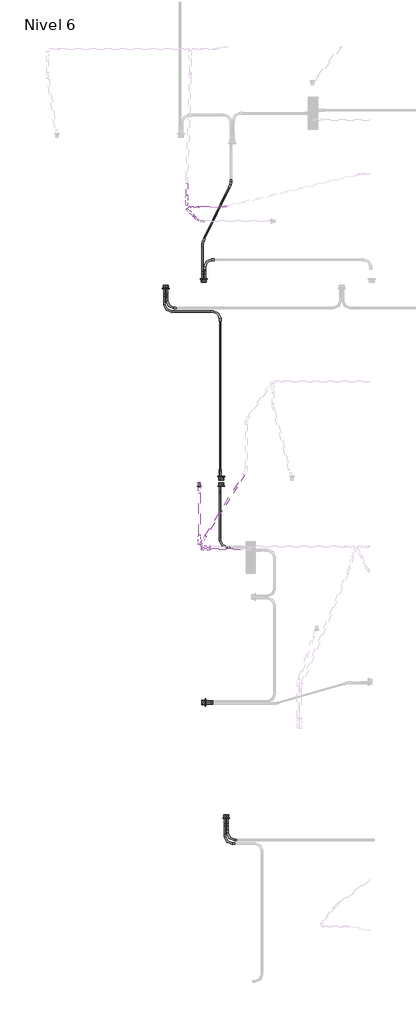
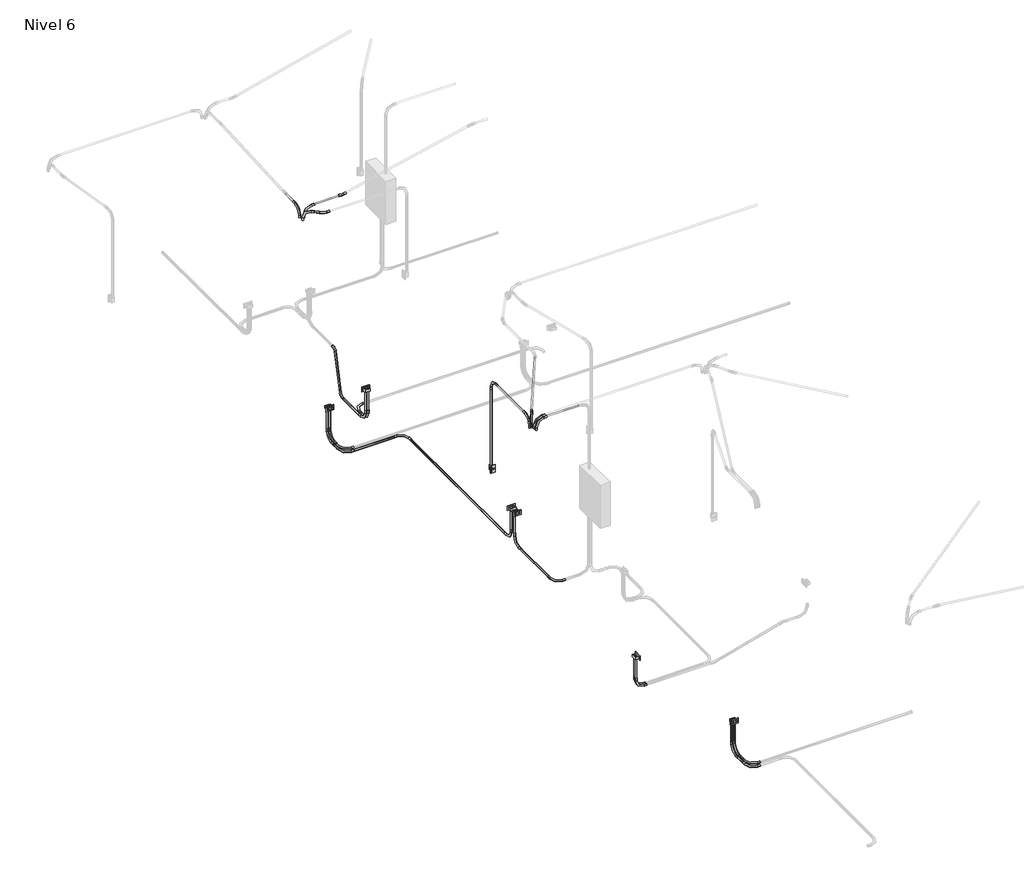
# One storey, part 1 of 9: 29 cable carrier fittings, 27 cable carrier segments, 6 proxies, 1 switching device.
"""IFC4 building model written with IfcOpenShell, lengths in millimetres."""

from ifc_helpers import new_model, si_unit, point, frame, frame_2d, origin, place, context, project, spatial, circle_curve, trimmed, segment, composite_curve, outline, extrude, transform, mapped, element, save
from components import gfci_180f1b41, m_codo_de_tubo_extremo_liso_pvc_9da73e12, m_codo_de_tubo_extremo_liso_pvc_985155b1, m_codo_de_tubo_extremo_liso_pvc_102f0f41, m_codo_de_tubo_extremo_liso_pvc_7aa797cd, m_codo_de_tubo_extremo_liso_pvc_f4916731, switching_device_22fed34b

model = new_model("IFC4")

# Units and contexts
model_context = context("Model", 3, world=origin())
ifc_project = project(units=[si_unit("LENGTHUNIT", "METRE", prefix="MILLI")], contexts=[model_context])

# Site, building, storey
site = spatial("IfcSite", under=ifc_project)
building = spatial("IfcBuilding", under=site)
storey = spatial("IfcBuildingStorey", under=building, Name="Nivel 6", Elevation=13400.0)

# Proxies
placement = place(None, origin())
gfci_shape = gfci_180f1b41(model_context)
element("IfcBuildingElementProxy", 1, Name="Tomacorriente doble 220V : GFCI", ObjectType="Tomacorriente doble 220V : GFCI", at=placement, inside=storey, context=model_context, shape_type="MappedRepresentation", body=[
    mapped(gfci_shape, transform((-489.5928488, 12365.0, 13800.0), x_axis=(0.0, 0.0, 1.0), y_axis=(1.0, 0.0, 0.0), z_axis=(0.0, 1.0, 0.0))),
])
element("IfcBuildingElementProxy", 2, Name="Tomacorriente doble 220V : GFCI", ObjectType="Tomacorriente doble 220V : GFCI", at=placement, inside=storey, context=model_context, shape_type="MappedRepresentation", body=[
    mapped(gfci_shape, transform((-1097.6783865, 12215.0, 13800.0), x_axis=(0.0, 0.0, 1.0), y_axis=(-1.0, 0.0, 0.0), z_axis=(0.0, -1.0, 0.0))),
])
element("IfcBuildingElementProxy", 3, Name="Tomacorriente doble 220V : GFCI", ObjectType="Tomacorriente doble 220V : GFCI", at=placement, inside=storey, context=model_context, shape_type="MappedRepresentation", body=[
    mapped(gfci_shape, transform((-206.3130807, 9199.6373182, 13800.0), x_axis=(0.0, 0.0, 1.0), y_axis=(1.0, 0.0, 0.0), z_axis=(0.0, 1.0, 0.0))),
])
element("IfcBuildingElementProxy", 4, Name="Tomacorriente doble 220V : GFCI", ObjectType="Tomacorriente doble 220V : GFCI", at=placement, inside=storey, context=model_context, shape_type="MappedRepresentation", body=[
    mapped(gfci_shape, transform((-209.814556, 9049.6373182, 13800.0), x_axis=(0.0, 0.0, 1.0), y_axis=(-1.0, 0.0, 0.0), z_axis=(0.0, -1.0, 0.0))),
])
element("IfcBuildingElementProxy", 5, Name="Tomacorriente doble 220V : GFCI", ObjectType="Tomacorriente doble 220V : GFCI", at=placement, inside=storey, context=model_context, shape_type="MappedRepresentation", body=[
    mapped(gfci_shape, transform((-465.0, 5584.8613197, 13800.0), x_axis=(0.0, 0.0, 1.0), y_axis=(0.0, -1.0, 0.0), z_axis=(1.0, 0.0, 0.0))),
])
element("IfcBuildingElementProxy", 6, Name="Tomacorriente doble 220V : GFCI", ObjectType="Tomacorriente doble 220V : GFCI", at=placement, inside=storey, context=model_context, shape_type="MappedRepresentation", body=[
    mapped(gfci_shape, transform((-128.2025722, 3735.0, 13800.0), x_axis=(0.0, 0.0, 1.0), y_axis=(-1.0, 0.0, 0.0), z_axis=(0.0, -1.0, 0.0))),
])

# Cable carrier fittings
m_codo_de_tubo_extremo_liso_pvc_shape = m_codo_de_tubo_extremo_liso_pvc_9da73e12(model_context)
element("IfcCableCarrierFitting", 7, ObjectType="M_Codo de tubo - Extremo liso - PVC : CODO POTENCIA", at=placement, inside=storey, context=model_context, shape_type="MappedRepresentation", body=[
    mapped(m_codo_de_tubo_extremo_liso_pvc_shape, transform((-507.6246686, 12335.3628882, 13330.0), x_axis=(0.0, 0.0, -1.0), y_axis=(0.0, 1.0, 0.0), z_axis=(1.0, 0.0, 0.0))),
])
element("IfcCableCarrierFitting", 8, ObjectType="M_Codo de tubo - Extremo liso - PVC : CODO POTENCIA", at=placement, inside=storey, context=model_context, shape_type="MappedRepresentation", body=[
    mapped(m_codo_de_tubo_extremo_liso_pvc_shape, transform((-471.561029, 12675.3628882, 13330.0), x_axis=(-1.0, 0.0, 0.0), y_axis=(0.0, -1.0, 0.0), z_axis=(0.0, 0.0, 1.0))),
])
element("IfcCableCarrierFitting", 9, ObjectType="M_Codo de tubo - Extremo liso - PVC : CODO POTENCIA", at=placement, inside=storey, context=model_context, shape_type="MappedRepresentation", body=[
    mapped(m_codo_de_tubo_extremo_liso_pvc_shape, transform((-471.561029, 12335.3628882, 13330.0), x_axis=(0.0, 0.0, -1.0), y_axis=(0.0, 1.0, 0.0), z_axis=(1.0, 0.0, 0.0))),
])
element("IfcCableCarrierFitting", 10, ObjectType="M_Codo de tubo - Extremo liso - PVC : CODO POTENCIA", at=placement, inside=storey, context=model_context, shape_type="MappedRepresentation", body=[
    mapped(m_codo_de_tubo_extremo_liso_pvc_shape, transform((-494.6371118, 5566.8294999, 13330.0), x_axis=(0.0, 0.0, -1.0), y_axis=(1.0, 0.0, 0.0), z_axis=(0.0, -1.0, 0.0))),
])
element("IfcCableCarrierFitting", 11, ObjectType="M_Codo de tubo - Extremo liso - PVC : CODO POTENCIA", at=placement, inside=storey, context=model_context, shape_type="MappedRepresentation", body=[
    mapped(m_codo_de_tubo_extremo_liso_pvc_shape, transform((-494.6371118, 5602.8931395, 13330.0), x_axis=(0.0, 0.0, -1.0), y_axis=(1.0, 0.0, 0.0), z_axis=(0.0, -1.0, 0.0))),
])
element("IfcCableCarrierFitting", 12, ObjectType="M_Codo de tubo - Extremo liso - PVC : CODO POTENCIA", at=placement, inside=storey, context=model_context, shape_type="MappedRepresentation", body=[
    mapped(m_codo_de_tubo_extremo_liso_pvc_shape, transform((-1079.6465667, 12244.6371118, 13330.0), x_axis=(0.0, 0.0, -1.0), y_axis=(0.0, -1.0, 0.0), z_axis=(-1.0, 0.0, 0.0))),
])
element("IfcCableCarrierFitting", 13, ObjectType="M_Codo de tubo - Extremo liso - PVC : CODO POTENCIA", at=placement, inside=storey, context=model_context, shape_type="MappedRepresentation", body=[
    mapped(m_codo_de_tubo_extremo_liso_pvc_shape, transform((-1115.7102064, 12244.6371118, 13330.0), x_axis=(0.0, 0.0, -1.0), y_axis=(0.0, -1.0, 0.0), z_axis=(-1.0, 0.0, 0.0))),
])
element("IfcCableCarrierFitting", 14, ObjectType="M_Codo de tubo - Extremo liso - PVC : CODO POTENCIA", at=placement, inside=storey, context=model_context, shape_type="MappedRepresentation", body=[
    mapped(m_codo_de_tubo_extremo_liso_pvc_shape, transform((-224.3449006, 9170.0002064, 13330.0), x_axis=(0.0, 0.0, -1.0), y_axis=(0.0, 1.0, 0.0), z_axis=(1.0, 0.0, 0.0))),
])
element("IfcCableCarrierFitting", 15, ObjectType="M_Codo de tubo - Extremo liso - PVC : CODO POTENCIA", at=placement, inside=storey, context=model_context, shape_type="MappedRepresentation", body=[
    mapped(m_codo_de_tubo_extremo_liso_pvc_shape, transform((-1079.6465667, 11904.6371118, 13330.0), x_axis=(0.0, -1.0, 0.0), y_axis=(1.0, 0.0, 0.0), z_axis=(0.0, 0.0, 1.0))),
])
element("IfcCableCarrierFitting", 16, ObjectType="M_Codo de tubo - Extremo liso - PVC : CODO POTENCIA", at=placement, inside=storey, context=model_context, shape_type="MappedRepresentation", body=[
    mapped(m_codo_de_tubo_extremo_liso_pvc_shape, transform((-1115.7102064, 11844.2380331, 13330.0), x_axis=(0.0, -1.0, 0.0), y_axis=(1.0, 0.0, 0.0), z_axis=(0.0, 0.0, 1.0))),
])
element("IfcCableCarrierFitting", 17, ObjectType="M_Codo de tubo - Extremo liso - PVC : CODO POTENCIA", at=placement, inside=storey, context=model_context, shape_type="MappedRepresentation", body=[
    mapped(m_codo_de_tubo_extremo_liso_pvc_shape, transform((-224.3449006, 11844.2380331, 13330.0), x_axis=(0.0, 1.0, 0.0), y_axis=(-1.0, 0.0, 0.0), z_axis=(0.0, 0.0, 1.0))),
])
element("IfcCableCarrierFitting", 18, ObjectType="M_Codo de tubo - Extremo liso - PVC : CODO POTENCIA", at=placement, inside=storey, context=model_context, shape_type="MappedRepresentation", body=[
    mapped(m_codo_de_tubo_extremo_liso_pvc_shape, transform((-227.8463758, 9079.27443, 13330.0), x_axis=(0.0, 0.0, -1.0), y_axis=(0.0, -1.0, 0.0), z_axis=(-1.0, 0.0, 0.0))),
])
element("IfcCableCarrierFitting", 19, ObjectType="M_Codo de tubo - Extremo liso - PVC : CODO POTENCIA", at=placement, inside=storey, context=model_context, shape_type="MappedRepresentation", body=[
    mapped(m_codo_de_tubo_extremo_liso_pvc_shape, transform((-227.8463758, 8072.1728984, 13330.0), x_axis=(0.0, -1.0, 0.0), y_axis=(1.0, 0.0, 0.0), z_axis=(0.0, 0.0, 1.0))),
])
element("IfcCableCarrierFitting", 20, ObjectType="M_Codo de tubo - Extremo liso - PVC : CODO POTENCIA", at=placement, inside=storey, context=model_context, shape_type="MappedRepresentation", body=[
    mapped(m_codo_de_tubo_extremo_liso_pvc_shape, transform((-110.1707524, 3764.6371118, 13330.0), x_axis=(0.0, 0.0, -1.0), y_axis=(0.0, -1.0, 0.0), z_axis=(-1.0, 0.0, 0.0))),
])
element("IfcCableCarrierFitting", 21, ObjectType="M_Codo de tubo - Extremo liso - PVC : CODO POTENCIA", at=placement, inside=storey, context=model_context, shape_type="MappedRepresentation", body=[
    mapped(m_codo_de_tubo_extremo_liso_pvc_shape, transform((-146.234392, 3764.6371118, 13330.0), x_axis=(0.0, 0.0, -1.0), y_axis=(0.0, -1.0, 0.0), z_axis=(-1.0, 0.0, 0.0))),
])
element("IfcCableCarrierFitting", 22, ObjectType="M_Codo de tubo - Extremo liso - PVC : CODO POTENCIA", at=placement, inside=storey, context=model_context, shape_type="MappedRepresentation", body=[
    mapped(m_codo_de_tubo_extremo_liso_pvc_shape, transform((-146.234392, 3324.6371118, 13330.0), x_axis=(0.0, -1.0, 0.0), y_axis=(1.0, 0.0, 0.0), z_axis=(0.0, 0.0, 1.0))),
])
element("IfcCableCarrierFitting", 23, ObjectType="M_Codo de tubo - Extremo liso - PVC : CODO POTENCIA", at=placement, inside=storey, context=model_context, shape_type="MappedRepresentation", body=[
    mapped(m_codo_de_tubo_extremo_liso_pvc_shape, transform((-110.1707524, 3384.6371118, 13330.0), x_axis=(0.0, -1.0, 0.0), y_axis=(1.0, 0.0, 0.0), z_axis=(0.0, 0.0, 1.0))),
])
m_codo_de_tubo_extremo_liso_pvc_2_shape = m_codo_de_tubo_extremo_liso_pvc_985155b1(model_context)
element("IfcCableCarrierFitting", 24, ObjectType="M_Codo de tubo - Extremo liso - PVC : CODO POTENCIA", at=placement, inside=storey, context=model_context, shape_type="MappedRepresentation", body=[
    mapped(m_codo_de_tubo_extremo_liso_pvc_2_shape, transform((-52.7017393, 13895.2735337, 13330.0), x_axis=(0.4356598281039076, 0.900111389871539, 0.0), y_axis=(-0.900111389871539, 0.4356598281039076, 0.0), z_axis=(0.0, 0.0, 1.0))),
])
element("IfcCableCarrierFitting", 25, ObjectType="M_Codo de tubo - Extremo liso - PVC : CODO POTENCIA", at=placement, inside=storey, context=model_context, shape_type="MappedRepresentation", body=[
    mapped(m_codo_de_tubo_extremo_liso_pvc_2_shape, transform((-507.6246686, 12955.3628882, 13330.0), x_axis=(-0.43565982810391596, -0.900111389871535, 0.0), y_axis=(0.900111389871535, -0.43565982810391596, 0.0), z_axis=(0.0, 0.0, 1.0))),
])
element("IfcCableCarrierFitting", 26, ObjectType="M_Codo de tubo - Extremo liso - PVC : CODO ILUMINACION", at=placement, inside=storey, context=model_context, shape_type="MappedRepresentation", body=[
    mapped(m_codo_de_tubo_extremo_liso_pvc_shape, transform((-721.5653638, 13520.6824633, 15950.0), x_axis=(-1.0, 0.0, 0.0), y_axis=(0.0, 0.0, -1.0), z_axis=(0.0, -1.0, 0.0))),
])
element("IfcCableCarrierFitting", 27, ObjectType="M_Codo de tubo - Extremo liso - PVC : CODO ILUMINACION", at=placement, inside=storey, context=model_context, shape_type="MappedRepresentation", body=[
    mapped(m_codo_de_tubo_extremo_liso_pvc_shape, transform((-517.891287, 8079.477095, 15950.0), x_axis=(-1.0, 0.0, 0.0), y_axis=(0.0, 0.0, -1.0), z_axis=(0.0, -1.0, 0.0))),
])
element("IfcCableCarrierFitting", 28, ObjectType="M_Codo de tubo - Extremo liso - PVC : CODO ILUMINACION", at=placement, inside=storey, context=model_context, shape_type="MappedRepresentation", body=[
    mapped(m_codo_de_tubo_extremo_liso_pvc_shape, transform((-760.3529908, 13554.1508308, 15950.0), x_axis=(0.0, -1.0, 0.0), y_axis=(0.0, 0.0, -1.0), z_axis=(1.0, 0.0, 0.0))),
])
element("IfcCableCarrierFitting", 29, ObjectType="M_Codo de tubo - Extremo liso - PVC : CODO ILUMINACION", at=placement, inside=storey, context=model_context, shape_type="MappedRepresentation", body=[
    mapped(m_codo_de_tubo_extremo_liso_pvc_shape, transform((-559.9270624, 9092.7761939, 15950.0), x_axis=(0.0, 0.0, 1.0), y_axis=(0.0, -1.0, 0.0), z_axis=(1.0, 0.0, 0.0))),
])
element("IfcCableCarrierFitting", 30, ObjectType="M_Codo de tubo - Extremo liso - PVC : CODO ILUMINACION", at=placement, inside=storey, context=model_context, shape_type="MappedRepresentation", body=[
    mapped(m_codo_de_tubo_extremo_liso_pvc_shape, transform((-517.891287, 8039.477095, 15950.0), x_axis=(-1.0, 0.0, 0.0), y_axis=(0.0, 0.0, -1.0), z_axis=(0.0, -1.0, 0.0))),
])
m_codo_de_tubo_extremo_liso_pvc_3_shape = m_codo_de_tubo_extremo_liso_pvc_102f0f41(model_context)
element("IfcCableCarrierFitting", 31, ObjectType="M_Codo de tubo - Extremo liso - PVC : CODO ILUMINACION", at=placement, inside=storey, context=model_context, shape_type="MappedRepresentation", body=[
    mapped(m_codo_de_tubo_extremo_liso_pvc_3_shape, transform((-753.3470454, 13484.7058227, 15950.0), x_axis=(-0.6946583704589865, 0.7193398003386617, 0.0), y_axis=(0.0, 0.0, 1.0000000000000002), z_axis=(0.7193398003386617, 0.6946583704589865, 0.0))),
])
element("IfcCableCarrierFitting", 32, ObjectType="M_Codo de tubo - Extremo liso - PVC : CODO ILUMINACION", at=placement, inside=storey, context=model_context, shape_type="MappedRepresentation", body=[
    mapped(m_codo_de_tubo_extremo_liso_pvc_3_shape, transform((-559.9270624, 8121.5128704, 15950.0), x_axis=(0.0, -1.0, 0.0), y_axis=(0.0, 0.0, 1.0), z_axis=(-1.0, 0.0, 0.0))),
])
element("IfcCableCarrierFitting", 33, ObjectType="M_Codo de tubo - Extremo liso - PVC : CODO ILUMINACION", at=placement, inside=storey, context=model_context, shape_type="MappedRepresentation", body=[
    mapped(m_codo_de_tubo_extremo_liso_pvc_3_shape, transform((-539.8844426, 8119.1537979, 15950.0), x_axis=(-0.5299192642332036, -0.848048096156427, 0.0), y_axis=(0.0, 0.0, 1.0000000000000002), z_axis=(-0.848048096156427, 0.5299192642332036, 0.0))),
])
m_codo_de_tubo_extremo_liso_pvc_4_shape = m_codo_de_tubo_extremo_liso_pvc_7aa797cd(model_context)
element("IfcCableCarrierFitting", 34, ObjectType="M_Codo de tubo - Extremo liso - PVC : CODO ILUMINACION", at=placement, inside=storey, context=model_context, shape_type="MappedRepresentation", body=[
    mapped(m_codo_de_tubo_extremo_liso_pvc_4_shape, transform((-155.9529109, 13525.6824633, 15950.0), x_axis=(1.0, 0.0, 0.0), y_axis=(0.0, 1.0, 0.0), z_axis=(0.0, 0.0, 1.0))),
])
m_codo_de_tubo_extremo_liso_pvc_5_shape = m_codo_de_tubo_extremo_liso_pvc_f4916731(model_context)
element("IfcCableCarrierFitting", 35, ObjectType="M_Codo de tubo - Extremo liso - PVC : CODO ILUMINACION", at=placement, inside=storey, context=model_context, shape_type="MappedRepresentation", body=[
    mapped(m_codo_de_tubo_extremo_liso_pvc_5_shape, transform((-567.747201, 13292.5115575, 15950.0), x_axis=(0.6946583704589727, -0.719339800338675, 0.0), y_axis=(0.719339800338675, 0.6946583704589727, 0.0), z_axis=(0.0, 0.0, 1.0))),
])

# Cable carrier segments
element("IfcCableCarrierSegment", 36, ObjectType="PVC-SEL, POTENCIA", at=placement, inside=storey, context=model_context, shape_type="SweptSolid", body=[
    extrude(outline(composite_curve([segment(trimmed(circle_curve(frame_2d((13330.0, -471.561029)), 11.71), [point((13330.0, -483.271029))], [point((13318.29, -471.561029))], False, "CARTESIAN"), True, "CONTINUOUS"), segment(trimmed(circle_curve(frame_2d((13330.0, -471.561029)), 11.71), [point((13318.29, -471.561029))], [point((13330.0, -459.851029))], False, "CARTESIAN"), True, "CONTINUOUS"), segment(trimmed(circle_curve(frame_2d((13330.0, -471.561029)), 11.71), [point((13330.0, -459.851029))], [point((13341.71, -471.561029))], False, "CARTESIAN"), True, "CONTINUOUS"), segment(trimmed(circle_curve(frame_2d((13330.0, -471.561029)), 11.71), [point((13341.71, -471.561029))], [point((13330.0, -483.271029))], False, "CARTESIAN"), True, "CONTINUOUS")], self_intersect=False)), frame((0.0, 12487.7628882, 0.0), z_axis=(0.0, 1.0, 0.0), x_axis=(0.0, 0.0, 1.0)), (0.0, 0.0, 1.0), 35.2),
])
element("IfcCableCarrierSegment", 37, ObjectType="PVC-SEL, POTENCIA", at=placement, inside=storey, context=model_context, shape_type="SweptSolid", body=[
    extrude(outline(composite_curve([segment(trimmed(circle_curve(frame_2d((-471.561029, 12335.3628882)), 11.71), [point((-459.851029, 12335.3628882))], [point((-471.561029, 12323.6528882))], False, "CARTESIAN"), True, "CONTINUOUS"), segment(trimmed(circle_curve(frame_2d((-471.561029, 12335.3628882)), 11.71), [point((-471.561029, 12323.6528882))], [point((-483.271029, 12335.3628882))], False, "CARTESIAN"), True, "CONTINUOUS"), segment(trimmed(circle_curve(frame_2d((-471.561029, 12335.3628882)), 11.71), [point((-483.271029, 12335.3628882))], [point((-471.561029, 12347.0728882))], False, "CARTESIAN"), True, "CONTINUOUS"), segment(trimmed(circle_curve(frame_2d((-471.561029, 12335.3628882)), 11.71), [point((-471.561029, 12347.0728882))], [point((-459.851029, 12335.3628882))], False, "CARTESIAN"), True, "CONTINUOUS")], self_intersect=False)), frame((0.0, 0.0, 13482.4), z_axis=(0.0, 0.0, 1.0), x_axis=(1.0, 0.0, 0.0)), (0.0, 0.0, 1.0), 297.3020537),
])
element("IfcCableCarrierSegment", 38, ObjectType="PVC-SEL, POTENCIA", at=placement, inside=storey, context=model_context, shape_type="SweptSolid", body=[
    extrude(outline(composite_curve([segment(trimmed(circle_curve(frame_2d((13330.0, -507.6246686)), 11.71), [point((13330.0, -495.9146686))], [point((13341.71, -507.6246686))], False, "CARTESIAN"), True, "CONTINUOUS"), segment(trimmed(circle_curve(frame_2d((13330.0, -507.6246686)), 11.71), [point((13341.71, -507.6246686))], [point((13330.0, -519.3346686))], False, "CARTESIAN"), True, "CONTINUOUS"), segment(trimmed(circle_curve(frame_2d((13330.0, -507.6246686)), 11.71), [point((13330.0, -519.3346686))], [point((13318.29, -507.6246686))], False, "CARTESIAN"), True, "CONTINUOUS"), segment(trimmed(circle_curve(frame_2d((13330.0, -507.6246686)), 11.71), [point((13318.29, -507.6246686))], [point((13330.0, -495.9146686))], False, "CARTESIAN"), True, "CONTINUOUS")], self_intersect=False)), frame((0.0, 12487.7628882, 0.0), z_axis=(0.0, 1.0, 0.0), x_axis=(0.0, 0.0, 1.0)), (0.0, 0.0, 1.0), 403.2931583),
])
element("IfcCableCarrierSegment", 39, ObjectType="PVC-SEL, POTENCIA", at=placement, inside=storey, context=model_context, shape_type="SweptSolid", body=[
    extrude(outline(composite_curve([segment(trimmed(circle_curve(frame_2d((-507.6246686, 12335.3628882)), 11.71), [point((-495.9146686, 12335.3628882))], [point((-507.6246686, 12323.6528882))], False, "CARTESIAN"), True, "CONTINUOUS"), segment(trimmed(circle_curve(frame_2d((-507.6246686, 12335.3628882)), 11.71), [point((-507.6246686, 12323.6528882))], [point((-519.3346686, 12335.3628882))], False, "CARTESIAN"), True, "CONTINUOUS"), segment(trimmed(circle_curve(frame_2d((-507.6246686, 12335.3628882)), 11.71), [point((-519.3346686, 12335.3628882))], [point((-507.6246686, 12347.0728882))], False, "CARTESIAN"), True, "CONTINUOUS"), segment(trimmed(circle_curve(frame_2d((-507.6246686, 12335.3628882)), 11.71), [point((-507.6246686, 12347.0728882))], [point((-495.9146686, 12335.3628882))], False, "CARTESIAN"), True, "CONTINUOUS")], self_intersect=False)), frame((0.0, 0.0, 13482.4), z_axis=(0.0, 0.0, 1.0), x_axis=(1.0, 0.0, 0.0)), (0.0, 0.0, 1.0), 297.3020537),
])
element("IfcCableCarrierSegment", 40, ObjectType="PVC-SEL, POTENCIA", at=placement, inside=storey, context=model_context, shape_type="SweptSolid", body=[
    extrude(outline(composite_curve([segment(trimmed(circle_curve(frame_2d((0.0, -11.71)), 11.71), [point((-11.71, -11.71))], [point((0.0, 0.0))], False, "CARTESIAN"), True, "CONTINUOUS"), segment(trimmed(circle_curve(frame_2d((0.0, -11.71)), 11.71), [point((0.0, 0.0))], [point((11.71, -11.71))], False, "CARTESIAN"), True, "CONTINUOUS"), segment(trimmed(circle_curve(frame_2d((0.0, -11.71)), 11.71), [point((11.71, -11.71))], [point((0.0, -23.42))], False, "CARTESIAN"), True, "CONTINUOUS"), segment(trimmed(circle_curve(frame_2d((0.0, -11.71)), 11.71), [point((0.0, -23.42))], [point((-11.71, -11.71))], False, "CARTESIAN"), True, "CONTINUOUS")], self_intersect=False)), frame((-479.608761, 13013.2462089, 13318.29), z_axis=(0.4356598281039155, 0.9001113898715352, 0.0), x_axis=(0.9001113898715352, -0.4356598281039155, 0.0)), (0.0, 0.0, 1.0), 915.6022393),
])
element("IfcCableCarrierSegment", 41, ObjectType="PVC-SEL, POTENCIA", at=placement, inside=storey, context=model_context, shape_type="SweptSolid", body=[
    extrude(outline(composite_curve([segment(trimmed(circle_curve(frame_2d((-494.6371118, 5566.8294999)), 11.71), [point((-482.9271118, 5566.8294999))], [point((-494.6371118, 5555.1194999))], False, "CARTESIAN"), True, "CONTINUOUS"), segment(trimmed(circle_curve(frame_2d((-494.6371118, 5566.8294999)), 11.71), [point((-494.6371118, 5555.1194999))], [point((-506.3471118, 5566.8294999))], False, "CARTESIAN"), True, "CONTINUOUS"), segment(trimmed(circle_curve(frame_2d((-494.6371118, 5566.8294999)), 11.71), [point((-506.3471118, 5566.8294999))], [point((-494.6371118, 5578.5394999))], False, "CARTESIAN"), True, "CONTINUOUS"), segment(trimmed(circle_curve(frame_2d((-494.6371118, 5566.8294999)), 11.71), [point((-494.6371118, 5578.5394999))], [point((-482.9271118, 5566.8294999))], False, "CARTESIAN"), True, "CONTINUOUS")], self_intersect=False)), frame((0.0, 0.0, 13482.4), z_axis=(0.0, 0.0, 1.0), x_axis=(1.0, 0.0, 0.0)), (0.0, 0.0, 1.0), 297.3020537),
])
element("IfcCableCarrierSegment", 42, ObjectType="PVC-SEL, POTENCIA", at=placement, inside=storey, context=model_context, shape_type="SweptSolid", body=[
    extrude(outline(composite_curve([segment(trimmed(circle_curve(frame_2d((-494.6371118, 5602.8931395)), 11.71), [point((-482.9271118, 5602.8931395))], [point((-494.6371118, 5591.1831395))], False, "CARTESIAN"), True, "CONTINUOUS"), segment(trimmed(circle_curve(frame_2d((-494.6371118, 5602.8931395)), 11.71), [point((-494.6371118, 5591.1831395))], [point((-506.3471118, 5602.8931395))], False, "CARTESIAN"), True, "CONTINUOUS"), segment(trimmed(circle_curve(frame_2d((-494.6371118, 5602.8931395)), 11.71), [point((-506.3471118, 5602.8931395))], [point((-494.6371118, 5614.6031395))], False, "CARTESIAN"), True, "CONTINUOUS"), segment(trimmed(circle_curve(frame_2d((-494.6371118, 5602.8931395)), 11.71), [point((-494.6371118, 5614.6031395))], [point((-482.9271118, 5602.8931395))], False, "CARTESIAN"), True, "CONTINUOUS")], self_intersect=False)), frame((0.0, 0.0, 13482.4), z_axis=(0.0, 0.0, 1.0), x_axis=(1.0, 0.0, 0.0)), (0.0, 0.0, 1.0), 297.3020537),
])
element("IfcCableCarrierSegment", 43, ObjectType="PVC-SEL, POTENCIA", at=placement, inside=storey, context=model_context, shape_type="SweptSolid", body=[
    extrude(outline(composite_curve([segment(trimmed(circle_curve(frame_2d((13330.0, -1079.6465667)), 11.71), [point((13330.0, -1091.3565667))], [point((13318.29, -1079.6465667))], False, "CARTESIAN"), True, "CONTINUOUS"), segment(trimmed(circle_curve(frame_2d((13330.0, -1079.6465667)), 11.71), [point((13318.29, -1079.6465667))], [point((13330.0, -1067.9365667))], False, "CARTESIAN"), True, "CONTINUOUS"), segment(trimmed(circle_curve(frame_2d((13330.0, -1079.6465667)), 11.71), [point((13330.0, -1067.9365667))], [point((13341.71, -1079.6465667))], False, "CARTESIAN"), True, "CONTINUOUS"), segment(trimmed(circle_curve(frame_2d((13330.0, -1079.6465667)), 11.71), [point((13341.71, -1079.6465667))], [point((13330.0, -1091.3565667))], False, "CARTESIAN"), True, "CONTINUOUS")], self_intersect=False)), frame((0.0, 12057.0371118, 0.0), z_axis=(0.0, 1.0, 0.0), x_axis=(0.0, 0.0, 1.0)), (0.0, 0.0, 1.0), 35.2),
])
element("IfcCableCarrierSegment", 44, ObjectType="PVC-SEL, POTENCIA", at=placement, inside=storey, context=model_context, shape_type="SweptSolid", body=[
    extrude(outline(composite_curve([segment(trimmed(circle_curve(frame_2d((-1079.6465667, 12244.6371118)), 11.71), [point((-1067.9365667, 12244.6371118))], [point((-1079.6465667, 12232.9271118))], False, "CARTESIAN"), True, "CONTINUOUS"), segment(trimmed(circle_curve(frame_2d((-1079.6465667, 12244.6371118)), 11.71), [point((-1079.6465667, 12232.9271118))], [point((-1091.3565667, 12244.6371118))], False, "CARTESIAN"), True, "CONTINUOUS"), segment(trimmed(circle_curve(frame_2d((-1079.6465667, 12244.6371118)), 11.71), [point((-1091.3565667, 12244.6371118))], [point((-1079.6465667, 12256.3471118))], False, "CARTESIAN"), True, "CONTINUOUS"), segment(trimmed(circle_curve(frame_2d((-1079.6465667, 12244.6371118)), 11.71), [point((-1079.6465667, 12256.3471118))], [point((-1067.9365667, 12244.6371118))], False, "CARTESIAN"), True, "CONTINUOUS")], self_intersect=False)), frame((0.0, 0.0, 13482.4), z_axis=(0.0, 0.0, 1.0), x_axis=(1.0, 0.0, 0.0)), (0.0, 0.0, 1.0), 297.3020537),
])
element("IfcCableCarrierSegment", 45, ObjectType="PVC-SEL, POTENCIA", at=placement, inside=storey, context=model_context, shape_type="SweptSolid", body=[
    extrude(outline(composite_curve([segment(trimmed(circle_curve(frame_2d((13330.0, -1115.7102064)), 11.71), [point((13330.0, -1127.4202064))], [point((13318.29, -1115.7102064))], False, "CARTESIAN"), True, "CONTINUOUS"), segment(trimmed(circle_curve(frame_2d((13330.0, -1115.7102064)), 11.71), [point((13318.29, -1115.7102064))], [point((13330.0, -1104.0002064))], False, "CARTESIAN"), True, "CONTINUOUS"), segment(trimmed(circle_curve(frame_2d((13330.0, -1115.7102064)), 11.71), [point((13330.0, -1104.0002064))], [point((13341.71, -1115.7102064))], False, "CARTESIAN"), True, "CONTINUOUS"), segment(trimmed(circle_curve(frame_2d((13330.0, -1115.7102064)), 11.71), [point((13341.71, -1115.7102064))], [point((13330.0, -1127.4202064))], False, "CARTESIAN"), True, "CONTINUOUS")], self_intersect=False)), frame((0.0, 11996.6380331, 0.0), z_axis=(0.0, 1.0, 0.0), x_axis=(0.0, 0.0, 1.0)), (0.0, 0.0, 1.0), 95.5990787),
])
element("IfcCableCarrierSegment", 46, ObjectType="PVC-SEL, POTENCIA", at=placement, inside=storey, context=model_context, shape_type="SweptSolid", body=[
    extrude(outline(composite_curve([segment(trimmed(circle_curve(frame_2d((-1115.7102064, 12244.6371118)), 11.71), [point((-1104.0002064, 12244.6371118))], [point((-1115.7102064, 12232.9271118))], False, "CARTESIAN"), True, "CONTINUOUS"), segment(trimmed(circle_curve(frame_2d((-1115.7102064, 12244.6371118)), 11.71), [point((-1115.7102064, 12232.9271118))], [point((-1127.4202064, 12244.6371118))], False, "CARTESIAN"), True, "CONTINUOUS"), segment(trimmed(circle_curve(frame_2d((-1115.7102064, 12244.6371118)), 11.71), [point((-1127.4202064, 12244.6371118))], [point((-1115.7102064, 12256.3471118))], False, "CARTESIAN"), True, "CONTINUOUS"), segment(trimmed(circle_curve(frame_2d((-1115.7102064, 12244.6371118)), 11.71), [point((-1115.7102064, 12256.3471118))], [point((-1104.0002064, 12244.6371118))], False, "CARTESIAN"), True, "CONTINUOUS")], self_intersect=False)), frame((0.0, 0.0, 13482.4), z_axis=(0.0, 0.0, 1.0), x_axis=(1.0, 0.0, 0.0)), (0.0, 0.0, 1.0), 297.3020537),
])
element("IfcCableCarrierSegment", 47, ObjectType="PVC-SEL, POTENCIA", at=placement, inside=storey, context=model_context, shape_type="SweptSolid", body=[
    extrude(outline(composite_curve([segment(trimmed(circle_curve(frame_2d((13330.0, -224.3449006)), 11.71), [point((13330.0, -212.6349006))], [point((13341.71, -224.3449006))], False, "CARTESIAN"), True, "CONTINUOUS"), segment(trimmed(circle_curve(frame_2d((13330.0, -224.3449006)), 11.71), [point((13341.71, -224.3449006))], [point((13330.0, -236.0549006))], False, "CARTESIAN"), True, "CONTINUOUS"), segment(trimmed(circle_curve(frame_2d((13330.0, -224.3449006)), 11.71), [point((13330.0, -236.0549006))], [point((13318.29, -224.3449006))], False, "CARTESIAN"), True, "CONTINUOUS"), segment(trimmed(circle_curve(frame_2d((13330.0, -224.3449006)), 11.71), [point((13318.29, -224.3449006))], [point((13330.0, -212.6349006))], False, "CARTESIAN"), True, "CONTINUOUS")], self_intersect=False)), frame((0.0, 9322.4002064, 0.0), z_axis=(0.0, 1.0, 0.0), x_axis=(0.0, 0.0, 1.0)), (0.0, 0.0, 1.0), 2369.4378266),
])
element("IfcCableCarrierSegment", 48, ObjectType="PVC-SEL, POTENCIA", at=placement, inside=storey, context=model_context, shape_type="SweptSolid", body=[
    extrude(outline(composite_curve([segment(trimmed(circle_curve(frame_2d((-224.3449006, 9170.0002064)), 11.71), [point((-212.6349006, 9170.0002064))], [point((-224.3449006, 9158.2902064))], False, "CARTESIAN"), True, "CONTINUOUS"), segment(trimmed(circle_curve(frame_2d((-224.3449006, 9170.0002064)), 11.71), [point((-224.3449006, 9158.2902064))], [point((-236.0549006, 9170.0002064))], False, "CARTESIAN"), True, "CONTINUOUS"), segment(trimmed(circle_curve(frame_2d((-224.3449006, 9170.0002064)), 11.71), [point((-236.0549006, 9170.0002064))], [point((-224.3449006, 9181.7102064))], False, "CARTESIAN"), True, "CONTINUOUS"), segment(trimmed(circle_curve(frame_2d((-224.3449006, 9170.0002064)), 11.71), [point((-224.3449006, 9181.7102064))], [point((-212.6349006, 9170.0002064))], False, "CARTESIAN"), True, "CONTINUOUS")], self_intersect=False)), frame((0.0, 0.0, 13482.4), z_axis=(0.0, 0.0, 1.0), x_axis=(1.0, 0.0, 0.0)), (0.0, 0.0, 1.0), 297.3020537),
])
element("IfcCableCarrierSegment", 49, ObjectType="PVC-SEL, POTENCIA", at=placement, inside=storey, context=model_context, shape_type="SweptSolid", body=[
    extrude(outline(composite_curve([segment(trimmed(circle_curve(frame_2d((11844.2380331, 13330.0)), 11.71), [point((11832.5280331, 13330.0))], [point((11844.2380331, 13341.71))], False, "CARTESIAN"), True, "CONTINUOUS"), segment(trimmed(circle_curve(frame_2d((11844.2380331, 13330.0)), 11.71), [point((11844.2380331, 13341.71))], [point((11855.9480331, 13330.0))], False, "CARTESIAN"), True, "CONTINUOUS"), segment(trimmed(circle_curve(frame_2d((11844.2380331, 13330.0)), 11.71), [point((11855.9480331, 13330.0))], [point((11844.2380331, 13318.29))], False, "CARTESIAN"), True, "CONTINUOUS"), segment(trimmed(circle_curve(frame_2d((11844.2380331, 13330.0)), 11.71), [point((11844.2380331, 13318.29))], [point((11832.5280331, 13330.0))], False, "CARTESIAN"), True, "CONTINUOUS")], self_intersect=False)), frame((-963.3102064, 0.0, 0.0), z_axis=(1.0, 0.0, 0.0), x_axis=(0.0, 1.0, 0.0)), (0.0, 0.0, 1.0), 586.5653058),
])
element("IfcCableCarrierSegment", 50, ObjectType="PVC-SEL, POTENCIA", at=placement, inside=storey, context=model_context, shape_type="SweptSolid", body=[
    extrude(outline(composite_curve([segment(trimmed(circle_curve(frame_2d((13330.0, -227.8463758)), 11.71), [point((13330.0, -239.5563758))], [point((13318.29, -227.8463758))], False, "CARTESIAN"), True, "CONTINUOUS"), segment(trimmed(circle_curve(frame_2d((13330.0, -227.8463758)), 11.71), [point((13318.29, -227.8463758))], [point((13330.0, -216.1363758))], False, "CARTESIAN"), True, "CONTINUOUS"), segment(trimmed(circle_curve(frame_2d((13330.0, -227.8463758)), 11.71), [point((13330.0, -216.1363758))], [point((13341.71, -227.8463758))], False, "CARTESIAN"), True, "CONTINUOUS"), segment(trimmed(circle_curve(frame_2d((13330.0, -227.8463758)), 11.71), [point((13341.71, -227.8463758))], [point((13330.0, -239.5563758))], False, "CARTESIAN"), True, "CONTINUOUS")], self_intersect=False)), frame((0.0, 8224.5728984, 0.0), z_axis=(0.0, 1.0, 0.0), x_axis=(0.0, 0.0, 1.0)), (0.0, 0.0, 1.0), 702.3015316),
])
element("IfcCableCarrierSegment", 51, ObjectType="PVC-SEL, POTENCIA", at=placement, inside=storey, context=model_context, shape_type="SweptSolid", body=[
    extrude(outline(composite_curve([segment(trimmed(circle_curve(frame_2d((-227.8463758, 9079.27443)), 11.71), [point((-216.1363758, 9079.27443))], [point((-227.8463758, 9067.56443))], False, "CARTESIAN"), True, "CONTINUOUS"), segment(trimmed(circle_curve(frame_2d((-227.8463758, 9079.27443)), 11.71), [point((-227.8463758, 9067.56443))], [point((-239.5563758, 9079.27443))], False, "CARTESIAN"), True, "CONTINUOUS"), segment(trimmed(circle_curve(frame_2d((-227.8463758, 9079.27443)), 11.71), [point((-239.5563758, 9079.27443))], [point((-227.8463758, 9090.98443))], False, "CARTESIAN"), True, "CONTINUOUS"), segment(trimmed(circle_curve(frame_2d((-227.8463758, 9079.27443)), 11.71), [point((-227.8463758, 9090.98443))], [point((-216.1363758, 9079.27443))], False, "CARTESIAN"), True, "CONTINUOUS")], self_intersect=False)), frame((0.0, 0.0, 13482.4), z_axis=(0.0, 0.0, 1.0), x_axis=(1.0, 0.0, 0.0)), (0.0, 0.0, 1.0), 297.3020537),
])
element("IfcCableCarrierSegment", 52, ObjectType="PVC-SEL, POTENCIA", at=placement, inside=storey, context=model_context, shape_type="SweptSolid", body=[
    extrude(outline(composite_curve([segment(trimmed(circle_curve(frame_2d((-110.1707524, 3764.6371118)), 11.71), [point((-98.4607524, 3764.6371118))], [point((-110.1707524, 3752.9271118))], False, "CARTESIAN"), True, "CONTINUOUS"), segment(trimmed(circle_curve(frame_2d((-110.1707524, 3764.6371118)), 11.71), [point((-110.1707524, 3752.9271118))], [point((-121.8807524, 3764.6371118))], False, "CARTESIAN"), True, "CONTINUOUS"), segment(trimmed(circle_curve(frame_2d((-110.1707524, 3764.6371118)), 11.71), [point((-121.8807524, 3764.6371118))], [point((-110.1707524, 3776.3471118))], False, "CARTESIAN"), True, "CONTINUOUS"), segment(trimmed(circle_curve(frame_2d((-110.1707524, 3764.6371118)), 11.71), [point((-110.1707524, 3776.3471118))], [point((-98.4607524, 3764.6371118))], False, "CARTESIAN"), True, "CONTINUOUS")], self_intersect=False)), frame((0.0, 0.0, 13482.4), z_axis=(0.0, 0.0, 1.0), x_axis=(1.0, 0.0, 0.0)), (0.0, 0.0, 1.0), 297.3020537),
])
element("IfcCableCarrierSegment", 53, ObjectType="PVC-SEL, POTENCIA", at=placement, inside=storey, context=model_context, shape_type="SweptSolid", body=[
    extrude(outline(composite_curve([segment(trimmed(circle_curve(frame_2d((13330.0, -110.1707524)), 11.71), [point((13330.0, -121.8807524))], [point((13318.29, -110.1707524))], False, "CARTESIAN"), True, "CONTINUOUS"), segment(trimmed(circle_curve(frame_2d((13330.0, -110.1707524)), 11.71), [point((13318.29, -110.1707524))], [point((13330.0, -98.4607524))], False, "CARTESIAN"), True, "CONTINUOUS"), segment(trimmed(circle_curve(frame_2d((13330.0, -110.1707524)), 11.71), [point((13330.0, -98.4607524))], [point((13341.71, -110.1707524))], False, "CARTESIAN"), True, "CONTINUOUS"), segment(trimmed(circle_curve(frame_2d((13330.0, -110.1707524)), 11.71), [point((13341.71, -110.1707524))], [point((13330.0, -121.8807524))], False, "CARTESIAN"), True, "CONTINUOUS")], self_intersect=False)), frame((0.0, 3537.0371118, 0.0), z_axis=(0.0, 1.0, 0.0), x_axis=(0.0, 0.0, 1.0)), (0.0, 0.0, 1.0), 75.2),
])
element("IfcCableCarrierSegment", 54, ObjectType="PVC-SEL, POTENCIA", at=placement, inside=storey, context=model_context, shape_type="SweptSolid", body=[
    extrude(outline(composite_curve([segment(trimmed(circle_curve(frame_2d((13330.0, -146.234392)), 11.71), [point((13330.0, -157.944392))], [point((13318.29, -146.234392))], False, "CARTESIAN"), True, "CONTINUOUS"), segment(trimmed(circle_curve(frame_2d((13330.0, -146.234392)), 11.71), [point((13318.29, -146.234392))], [point((13330.0, -134.524392))], False, "CARTESIAN"), True, "CONTINUOUS"), segment(trimmed(circle_curve(frame_2d((13330.0, -146.234392)), 11.71), [point((13330.0, -134.524392))], [point((13341.71, -146.234392))], False, "CARTESIAN"), True, "CONTINUOUS"), segment(trimmed(circle_curve(frame_2d((13330.0, -146.234392)), 11.71), [point((13341.71, -146.234392))], [point((13330.0, -157.944392))], False, "CARTESIAN"), True, "CONTINUOUS")], self_intersect=False)), frame((0.0, 3477.0371118, 0.0), z_axis=(0.0, 1.0, 0.0), x_axis=(0.0, 0.0, 1.0)), (0.0, 0.0, 1.0), 135.2),
])
element("IfcCableCarrierSegment", 55, ObjectType="PVC-SEL, POTENCIA", at=placement, inside=storey, context=model_context, shape_type="SweptSolid", body=[
    extrude(outline(composite_curve([segment(trimmed(circle_curve(frame_2d((-146.234392, 3764.6371118)), 11.71), [point((-134.524392, 3764.6371118))], [point((-146.234392, 3752.9271118))], False, "CARTESIAN"), True, "CONTINUOUS"), segment(trimmed(circle_curve(frame_2d((-146.234392, 3764.6371118)), 11.71), [point((-146.234392, 3752.9271118))], [point((-157.944392, 3764.6371118))], False, "CARTESIAN"), True, "CONTINUOUS"), segment(trimmed(circle_curve(frame_2d((-146.234392, 3764.6371118)), 11.71), [point((-157.944392, 3764.6371118))], [point((-146.234392, 3776.3471118))], False, "CARTESIAN"), True, "CONTINUOUS"), segment(trimmed(circle_curve(frame_2d((-146.234392, 3764.6371118)), 11.71), [point((-146.234392, 3776.3471118))], [point((-134.524392, 3764.6371118))], False, "CARTESIAN"), True, "CONTINUOUS")], self_intersect=False)), frame((0.0, 0.0, 13482.4), z_axis=(0.0, 0.0, 1.0), x_axis=(1.0, 0.0, 0.0)), (0.0, 0.0, 1.0), 297.3020537),
])
element("IfcCableCarrierSegment", 56, ObjectType="PVC-SEL ILUMINACION", at=placement, inside=storey, context=model_context, shape_type="SweptSolid", body=[
    extrude(outline(composite_curve([segment(trimmed(circle_curve(frame_2d((0.0, 11.71)), 11.71), [point((11.71, 11.71))], [point((0.0, 0.0))], False, "CARTESIAN"), True, "CONTINUOUS"), segment(trimmed(circle_curve(frame_2d((0.0, 11.71)), 11.71), [point((0.0, 0.0))], [point((-11.71, 11.71))], False, "CARTESIAN"), True, "CONTINUOUS"), segment(trimmed(circle_curve(frame_2d((0.0, 11.71)), 11.71), [point((-11.71, 11.71))], [point((0.0, 23.42))], False, "CARTESIAN"), True, "CONTINUOUS"), segment(trimmed(circle_curve(frame_2d((0.0, 11.71)), 11.71), [point((0.0, 23.42))], [point((11.71, 11.71))], False, "CARTESIAN"), True, "CONTINUOUS")], self_intersect=False)), frame((-569.1653638, 13520.6824633, 15961.71), z_axis=(0.9999069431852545, 0.013642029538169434, 0.0), x_axis=(0.013642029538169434, -0.9999069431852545, 0.0)), (0.0, 0.0, 1.0), 361.2848653),
])
element("IfcCableCarrierSegment", 57, ObjectType="PVC-SEL ILUMINACION", at=placement, inside=storey, context=model_context, shape_type="SweptSolid", body=[
    extrude(outline(composite_curve([segment(trimmed(circle_curve(frame_2d((0.0, -11.71)), 11.71), [point((-11.71, -11.71))], [point((0.0, 0.0))], False, "CARTESIAN"), True, "CONTINUOUS"), segment(trimmed(circle_curve(frame_2d((0.0, -11.71)), 11.71), [point((0.0, 0.0))], [point((11.71, -11.71))], False, "CARTESIAN"), True, "CONTINUOUS"), segment(trimmed(circle_curve(frame_2d((0.0, -11.71)), 11.71), [point((11.71, -11.71))], [point((0.0, -23.42))], False, "CARTESIAN"), True, "CONTINUOUS"), segment(trimmed(circle_curve(frame_2d((0.0, -11.71)), 11.71), [point((0.0, -23.42))], [point((-11.71, -11.71))], False, "CARTESIAN"), True, "CONTINUOUS")], self_intersect=False)), frame((-627.9167526, 13354.8189522, 15938.29), z_axis=(-0.6946583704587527, 0.7193398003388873, 0.0), x_axis=(0.7193398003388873, 0.6946583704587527, 0.0)), (0.0, 0.0, 1.0), 28.1639983),
])
element("IfcCableCarrierSegment", 58, ObjectType="PVC-SEL ILUMINACION", at=placement, inside=storey, context=model_context, shape_type="SweptSolid", body=[
    extrude(outline(composite_curve([segment(trimmed(circle_curve(frame_2d((15950.0, -760.3529908)), 11.71), [point((15950.0, -748.6429908))], [point((15961.71, -760.3529908))], False, "CARTESIAN"), True, "CONTINUOUS"), segment(trimmed(circle_curve(frame_2d((15950.0, -760.3529908)), 11.71), [point((15961.71, -760.3529908))], [point((15950.0, -772.0629908))], False, "CARTESIAN"), True, "CONTINUOUS"), segment(trimmed(circle_curve(frame_2d((15950.0, -760.3529908)), 11.71), [point((15950.0, -772.0629908))], [point((15938.29, -760.3529908))], False, "CARTESIAN"), True, "CONTINUOUS"), segment(trimmed(circle_curve(frame_2d((15950.0, -760.3529908)), 11.71), [point((15938.29, -760.3529908))], [point((15950.0, -748.6429908))], False, "CARTESIAN"), True, "CONTINUOUS")], self_intersect=False)), frame((0.0, 13706.5508308, 0.0), z_axis=(0.0, 1.0, 0.0), x_axis=(0.0, 0.0, 1.0)), (0.0, 0.0, 1.0), 193.3909564),
])
element("IfcCableCarrierSegment", 59, ObjectType="PVC-SEL ILUMINACION", at=placement, inside=storey, context=model_context, shape_type="SweptSolid", body=[
    extrude(outline(composite_curve([segment(trimmed(circle_curve(frame_2d((15950.0, -559.9270624)), 11.71), [point((15950.0, -548.2170624))], [point((15961.71, -559.9270624))], False, "CARTESIAN"), True, "CONTINUOUS"), segment(trimmed(circle_curve(frame_2d((15950.0, -559.9270624)), 11.71), [point((15961.71, -559.9270624))], [point((15950.0, -571.6370624))], False, "CARTESIAN"), True, "CONTINUOUS"), segment(trimmed(circle_curve(frame_2d((15950.0, -559.9270624)), 11.71), [point((15950.0, -571.6370624))], [point((15938.29, -559.9270624))], False, "CARTESIAN"), True, "CONTINUOUS"), segment(trimmed(circle_curve(frame_2d((15950.0, -559.9270624)), 11.71), [point((15938.29, -559.9270624))], [point((15950.0, -548.2170624))], False, "CARTESIAN"), True, "CONTINUOUS")], self_intersect=False)), frame((0.0, 8273.9128704, 0.0), z_axis=(0.0, 1.0, 0.0), x_axis=(0.0, 0.0, 1.0)), (0.0, 0.0, 1.0), 666.4633234),
])
element("IfcCableCarrierSegment", 60, ObjectType="PVC-SEL ILUMINACION", at=placement, inside=storey, context=model_context, shape_type="SweptSolid", body=[
    extrude(outline(composite_curve([segment(trimmed(circle_curve(frame_2d((-559.9270624, 9092.7761939)), 11.71), [point((-571.6370624, 9092.7761939))], [point((-559.9270624, 9104.4861939))], False, "CARTESIAN"), True, "CONTINUOUS"), segment(trimmed(circle_curve(frame_2d((-559.9270624, 9092.7761939)), 11.71), [point((-559.9270624, 9104.4861939))], [point((-548.2170624, 9092.7761939))], False, "CARTESIAN"), True, "CONTINUOUS"), segment(trimmed(circle_curve(frame_2d((-559.9270624, 9092.7761939)), 11.71), [point((-548.2170624, 9092.7761939))], [point((-559.9270624, 9081.0661939))], False, "CARTESIAN"), True, "CONTINUOUS"), segment(trimmed(circle_curve(frame_2d((-559.9270624, 9092.7761939)), 11.71), [point((-559.9270624, 9081.0661939))], [point((-571.6370624, 9092.7761939))], False, "CARTESIAN"), True, "CONTINUOUS")], self_intersect=False)), frame((0.0, 0.0, 14640.2227463), z_axis=(0.0, 0.0, 1.0), x_axis=(1.0, 0.0, 0.0)), (0.0, 0.0, 1.0), 1157.3772537),
])
element("IfcCableCarrierSegment", 61, ObjectType="PVC-SEL ILUMINACION", at=placement, inside=storey, context=model_context, shape_type="SweptSolid", body=[
    extrude(outline(composite_curve([segment(trimmed(circle_curve(frame_2d((0.0, -11.71)), 11.71), [point((-11.71, -11.71))], [point((0.0, 0.0))], False, "CARTESIAN"), True, "CONTINUOUS"), segment(trimmed(circle_curve(frame_2d((0.0, -11.71)), 11.71), [point((0.0, 0.0))], [point((11.71, -11.71))], False, "CARTESIAN"), True, "CONTINUOUS"), segment(trimmed(circle_curve(frame_2d((0.0, -11.71)), 11.71), [point((11.71, -11.71))], [point((0.0, -23.42))], False, "CARTESIAN"), True, "CONTINUOUS"), segment(trimmed(circle_curve(frame_2d((0.0, -11.71)), 11.71), [point((0.0, -23.42))], [point((-11.71, -11.71))], False, "CARTESIAN"), True, "CONTINUOUS")], self_intersect=False)), frame((-459.1247467, 8248.3963278, 15938.29), z_axis=(0.5299192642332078, 0.8480480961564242, 0.0), x_axis=(0.8480480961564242, -0.5299192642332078, 0.0)), (0.0, 0.0, 1.0), 1158.8498754),
])
element("IfcCableCarrierSegment", 62, ObjectType="PVC-SEL ILUMINACION", at=placement, inside=storey, context=model_context, shape_type="SweptSolid", body=[
    extrude(outline(composite_curve([segment(trimmed(circle_curve(frame_2d((8039.477095, 15950.0)), 11.71), [point((8027.767095, 15950.0))], [point((8039.477095, 15961.71))], False, "CARTESIAN"), True, "CONTINUOUS"), segment(trimmed(circle_curve(frame_2d((8039.477095, 15950.0)), 11.71), [point((8039.477095, 15961.71))], [point((8051.187095, 15950.0))], False, "CARTESIAN"), True, "CONTINUOUS"), segment(trimmed(circle_curve(frame_2d((8039.477095, 15950.0)), 11.71), [point((8051.187095, 15950.0))], [point((8039.477095, 15938.29))], False, "CARTESIAN"), True, "CONTINUOUS"), segment(trimmed(circle_curve(frame_2d((8039.477095, 15950.0)), 11.71), [point((8039.477095, 15938.29))], [point((8027.767095, 15950.0))], False, "CARTESIAN"), True, "CONTINUOUS")], self_intersect=False)), frame((-365.491287, 0.0, 0.0), z_axis=(1.0, 0.0, 0.0), x_axis=(0.0, 1.0, 0.0)), (0.0, 0.0, 1.0), 467.6),
])

# Switching device
switching_device_shape = switching_device_22fed34b(model_context)
element("IfcSwitchingDevice", 63, ObjectType="Interruptor : Tridireccional", at=placement, inside=storey, context=model_context, shape_type="MappedRepresentation", body=[
    mapped(switching_device_shape, transform((-559.8772168, 9049.6373182, 14600.0), x_axis=(1.0, 0.0, 0.0), y_axis=(0.0, 0.0, 1.0), z_axis=(0.0, -1.0, 0.0))),
])

save(model, "model.ifc")
